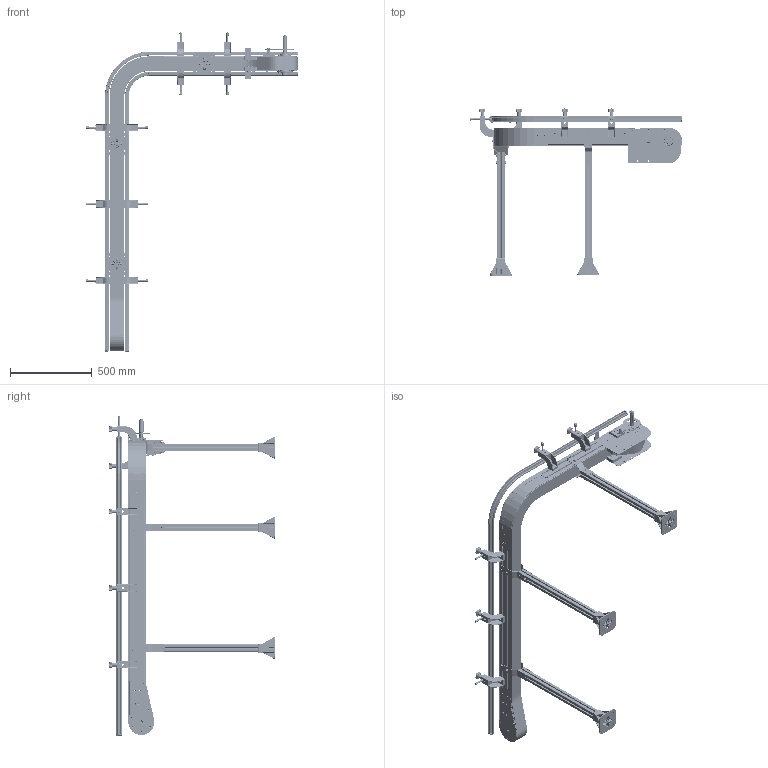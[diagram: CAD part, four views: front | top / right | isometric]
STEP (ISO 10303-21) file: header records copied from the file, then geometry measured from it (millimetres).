
FILE_DESCRIPTION (( 'STEP AP203' ), '1' );
FILE_NAME ('NASTRO_CATENA.step', '2026-05-05T07:35:31', ( 'Utente Windows' ), ( '' ), 'SwSTEP 2.0', 'SolidWorks 2024', '' );
FILE_SCHEMA (( 'CONFIG_CONTROL_DESIGN' ));
Length unit declared in the file: millimetre
Products named in the file (75): 2000.325.103; 2000.001.004-3; 084.711.002; 084.302.000 DADI ALUSIC 13x13-1_084.302.004; PU008.012.025N; 084.712.002; 2000.325.620; VITI TCEI UNI 5931 INOX_M6x30 UNI 5931 INOX; 084.711.005; K325_2_Default<A macchina>; 2000.001.213; FLANGIA_GAMBE_KP325; 2000.001.002; 2000.001.212; CHIAVETTE_A 8x7x50 UNI 6604-69; GRANI A PUNTA CONICA UNI 5927 INOX_M8x14 UNI 5927 INOX; 2000.001.201-3; 084.302.000 DADI ALUSIC 13x13-1_084.302.008; 2000.001.011; 2000.325.429_Default<A macchina>; VITI TE UNI 5739 INOX_M8x20 UNI 5739 INOX; 084.808.004; 2000.325.104-2; 084.312.006; SPONDA_L_SX_Default<A macchina>; SBPF205; RONDELLE FASCIA LARGA UNI 6593 INOX_8.4x24 UNI 6593 INOX; VITI TE UNI 5739_M8x20 UNI 5739; 0630UNI8735; 2000.325.205-4; CHIAVETTE_A 8x7x70 UNI 6604-69; CATENA_LSX; K325_R_P; 084.301.000 VITI ALUSIC_084.301.002; 2000.325.432; 084.409.002; GRANI A PUNTA CONICA UNI 5927_M8x16 UNI 5927; 2000.325.428-1_2000.1200.490; VITI TSEI UNI 5933 INOX_0820UNI5933A2; GRANI A PUNTA PIATTA UNI 5923_M8x20 UNI 5923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
Assembly tree (208 placements, depth 4):
  NASTRO_CATENA
    K325_1_Default<A macchina>
    K325_2_Default<A macchina>
    K325_DIR_49_P_DX_MOTORE A DESTRA
      084.802.027
      2000.001.006-2  x2
      2000.325.003  x2
      2000.325.103
      2000.001.001  x2
      2000.325.001_Default<Lavorato>  x2
      084.808.004
      2000.325.104-2
      2000.001.004-3
      2000.001.011
      2000.325.105-2
      2000.001.003-3
      CHIAVETTE_A 8x7x70 UNI 6604-69
      CHIAVETTE_A 8x7x50 UNI 6604-69
      SBPF205  x2
      663151_NS880T12R25
      VITI TSEI UNI 5933 INOX_0410UNI5933A2  x8
      GRANI A PUNTA CONICA UNI 5927_M8x16 UNI 5927  x8
      VITI TCEI UNI 5931 INOX_M6x30 UNI 5931 INOX  x2
      VITI TE UNI 5739 INOX_M8x20 UNI 5739 INOX
      RONDELLE FASCIA LARGA UNI 6593 INOX_8.4x32 UNI 6593 INOX
      GRANI A PUNTA PIATTA UNI 5923_M8x20 UNI 5923
      RONDELLE FASCIA LARGA UNI 6593 INOX_8.4x24 UNI 6593 INOX
      VITI TE UNI 5739 INOX_M8x16 UNI 5739 INOX  x7
      DADI ESAGONALI AUTOBLOCCANTI UNI 7473 INOX_M6 UNI 7473 INOX  x4
      084.312.006  x6
      PU008.012.025N
      VITI TE UNI 5739 INOX_M6x30 UNI 5739 INOX  x4
      VITI TE UNI 5739 INOX_M6x20 UNI 5739 INOX  x6
    K325_90°_D_P
      2000.325.428-1_2000.1200.490  x2
      2000.325.429_Default<A macchina>  x2
      2000.001.402  x4
      2000.325.432
      2000.325.431
      VITI TSEI UNI 5933 INOX_0820UNI5933A2  x8
      VITI TSEI UNI 5933 INOX_0620UNI5933A2  x8
      084.302.000 DADI ALUSIC 13x13-1_084.302.008  x8
      GRANI A PUNTA CONICA UNI 5927 INOX_M8x14 UNI 5927 INOX  x16
    K325_R_P
      2000.001.201-3
      2000.001.202-3
      PROFILO POLIZENE_209<A macchina>  x2
      2000.325.201-1S
      2000.325.205-4
      2000.325.204-4
      2000.001.002  x2
      2000.001.001  x2
      2000.325.001_Default<Lavorato>  x2
      2000.001.213
        2000.001.212  x2
        0630UNI8735  x2
    GAMBE_KP325_Default<A macchina>  x3
    FLANGIA_GAMBE_KP325  x6
      2000.325.620
      084.302.016
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Bounding box: 1298.56 x 1017.82 x 1948.56 mm (x, y, z)
Volume: 19578147.3 mm3; surface area: 8696009.1 mm2
Topology: 348 solids, 357 shells, 10238 faces, 25380 edges, 15989 vertices
Faces by surface type: plane 4717, cylinder 3628, cone 1062, torus 576, bspline 195, sphere 60
Entity records: 122702 total; most frequent: CARTESIAN_POINT 22240, DIRECTION 19345, ORIENTED_EDGE 18062, EDGE_CURVE 9042, AXIS2_PLACEMENT_3D 6943, VERTEX_POINT 5679, LINE 5459, VECTOR 5459
